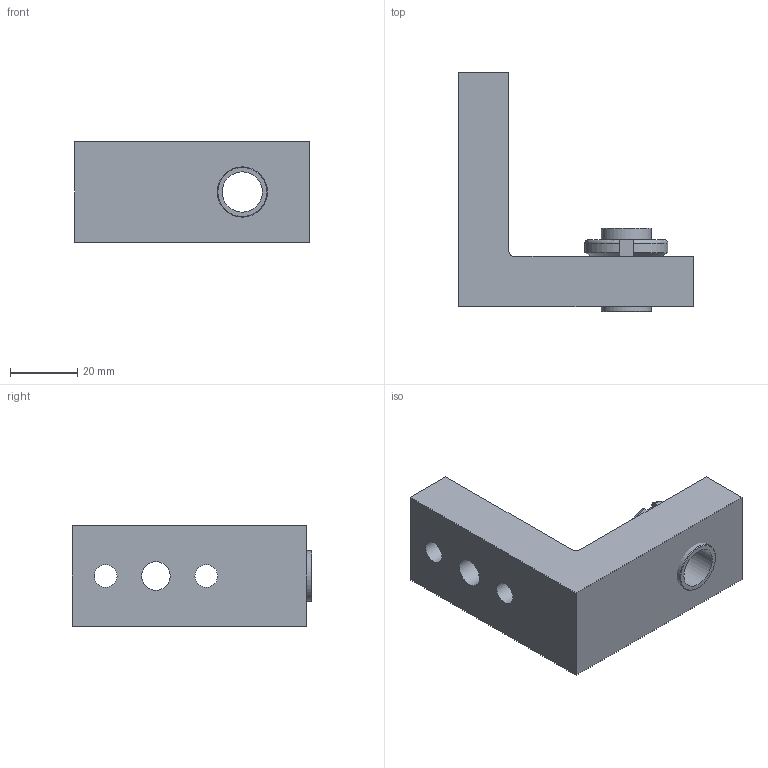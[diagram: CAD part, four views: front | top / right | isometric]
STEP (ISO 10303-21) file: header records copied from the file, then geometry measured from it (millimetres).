
FILE_DESCRIPTION(/* description */ (''),/* implementation_level */ '2;1');
FILE_NAME(/* name */ 'C:\Local Work Area\Progetti\AP\CALIBRI\03 Portacomparatore\03.07-G.stp',/* time_stamp */ '2015-03-31T15:51:06+02:00',/* author */ ('CAD5'),/* organization */ (''),/* preprocessor_version */ 'ST-DEVELOPER v15.2',/* originating_system */ 'Autodesk Inventor 2014',/* authorisation */ '');
FILE_SCHEMA (('AUTOMOTIVE_DESIGN { 1 0 10303 214 3 1 1 }'));
Length unit declared in the file: millimetre
Products named in the file (5): 03.07-B; 03.65; Vite STEI M8x10 UNI 5923; Ghiera SKF M15x1 KM_2; 03.07-G
Bounding box: 70 x 71.5 x 30 mm (x, y, z)
Volume: 54922.2 mm3; surface area: 17247.4 mm2
Topology: 4 solids, 4 shells, 61 faces, 161 edges, 107 vertices
Faces by surface type: plane 32, cylinder 14, cone 11, torus 4
Full cylindrical faces by diameter (mm): 6.647 x1, 6.8 x2, 8 x1, 8.5 x1, 12 x1, 13.917 x1, 15 x2
Entity records: 1936 total; most frequent: CARTESIAN_POINT 452, DIRECTION 285, ORIENTED_EDGE 270, EDGE_CURVE 135, AXIS2_PLACEMENT_3D 111, VERTEX_POINT 98, EDGE_LOOP 91, LINE 63
